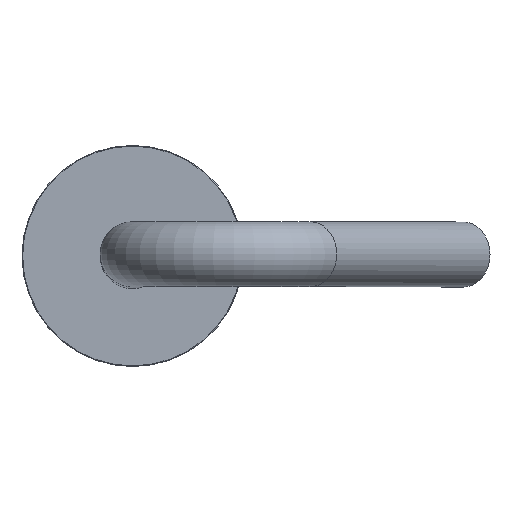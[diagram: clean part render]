
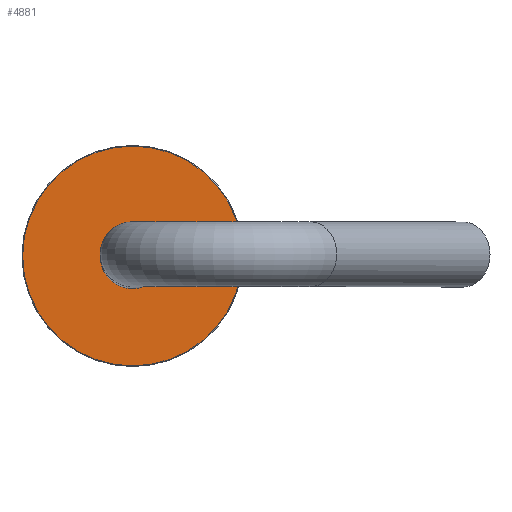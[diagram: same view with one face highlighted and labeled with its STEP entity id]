
A CAD part, top view. The second image highlights one B-rep face of the part: STEP entity #4881.
In plain terms, the highlighted planar face has unit normal (0, 0, 1).
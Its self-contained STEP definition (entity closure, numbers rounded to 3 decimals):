
#207=PLANE('',#5193);
#325=CIRCLE('',#5194,33.8);
#326=CIRCLE('',#5195,8.958);
#1001=ORIENTED_EDGE('',*,*,#1681,.T.);
#1002=ORIENTED_EDGE('',*,*,#1682,.T.);
#1681=EDGE_CURVE('',#2070,#2070,#325,.F.);
#1682=EDGE_CURVE('',#2071,#2071,#326,.T.);
#2070=VERTEX_POINT('',#7545);
#2071=VERTEX_POINT('',#7547);
#2869=EDGE_LOOP('',(#1001));
#2870=EDGE_LOOP('',(#1002));
#3199=FACE_BOUND('',#2869,.T.);
#3200=FACE_BOUND('',#2870,.T.);
#4881=ADVANCED_FACE('',(#3199,#3200),#207,.F.);
#5193=AXIS2_PLACEMENT_3D('',#7543,#5894,#5895);
#5194=AXIS2_PLACEMENT_3D('',#7544,#5896,#5897);
#5195=AXIS2_PLACEMENT_3D('',#7546,#5898,#5899);
#5894=DIRECTION('',(0.,0.,-1.));
#5895=DIRECTION('',(-1.,0.,0.));
#5896=DIRECTION('',(0.,0.,-1.));
#5897=DIRECTION('',(-1.,0.,0.));
#5898=DIRECTION('',(0.,0.,-1.));
#5899=DIRECTION('',(-1.,0.,0.));
#7543=CARTESIAN_POINT('',(0.,0.,5.5));
#7544=CARTESIAN_POINT('',(0.,0.,5.5));
#7545=CARTESIAN_POINT('',(-33.8,0.,5.5));
#7546=CARTESIAN_POINT('',(0.,0.,5.5));
#7547=CARTESIAN_POINT('',(-8.958,0.,5.5));
